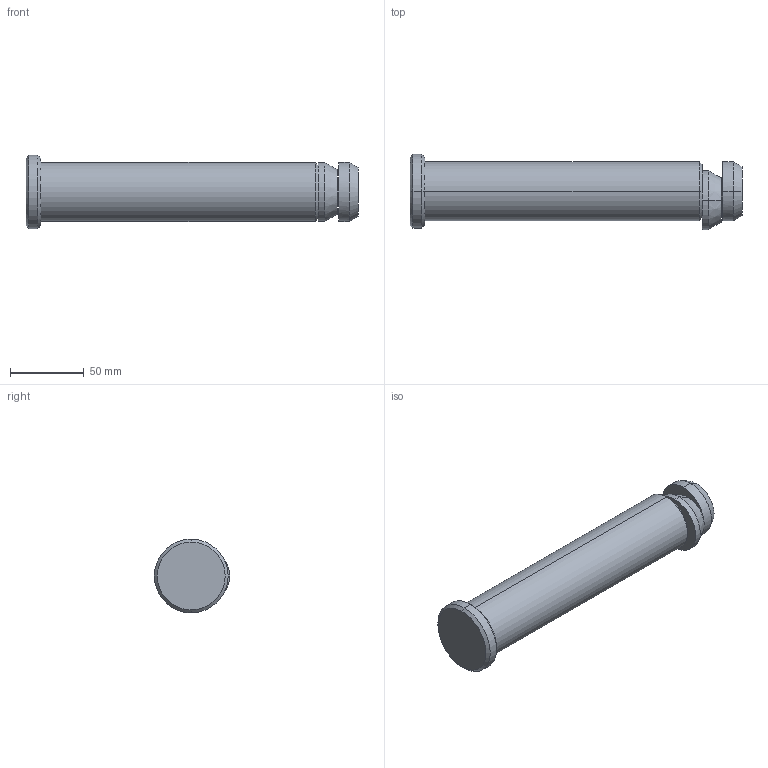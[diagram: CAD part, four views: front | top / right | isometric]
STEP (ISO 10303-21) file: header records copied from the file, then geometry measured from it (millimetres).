
FILE_DESCRIPTION(('CATIA V5 STEP Exchange'),'2;1');
FILE_NAME('C:\Users\Raffaele\Desktop\3D X SITO CF\PERNI -STAFFE SOLLEVAMENTO\395A\GSB_OILLESS_C10309040225\STEP-2.03\395A-040-225.stp','2019-07-02T14:30:35+00:00',('none'),('none'),'CATIA Version 5 Release 20 GA (IN-10)','CATIA V5 STEP AP203','none');
FILE_SCHEMA(('CONFIG_CONTROL_DESIGN'));
Length unit declared in the file: millimetre
Products named in the file (1): 395A-040-225
Bounding box: 225 x 51 x 50 mm (x, y, z)
Volume: 284055.7 mm3; surface area: 34170.3 mm2
Topology: 1 solids, 1 shells, 43 faces, 124 edges, 88 vertices
Faces by surface type: cylinder 20, plane 13, cone 10
Entity records: 1691 total; most frequent: CARTESIAN_POINT 535, ORIENTED_EDGE 248, DIRECTION 192, EDGE_CURVE 124, AXIS2_PLACEMENT_3D 112, VERTEX_POINT 88, CIRCLE 68, EDGE_LOOP 48
